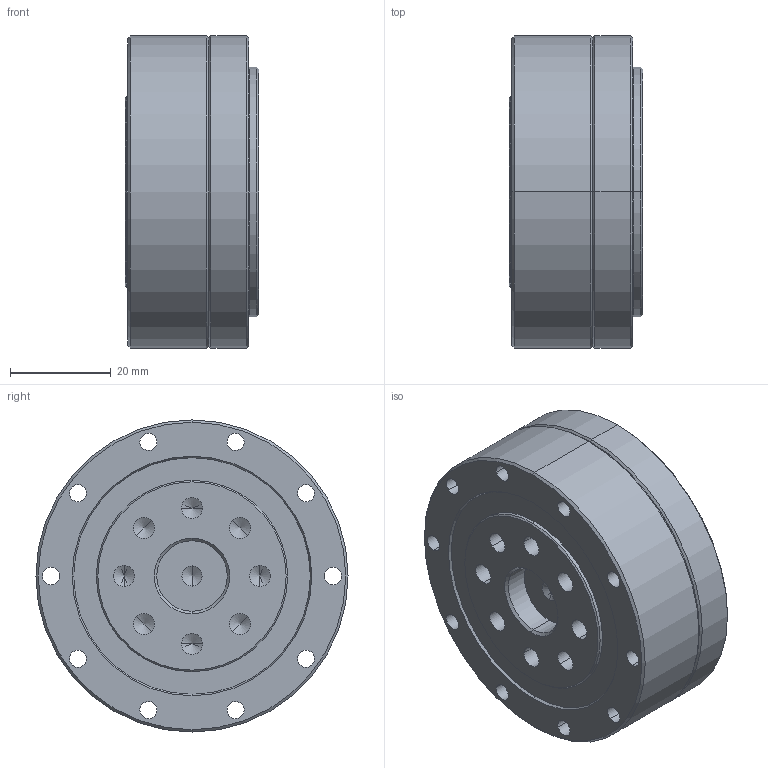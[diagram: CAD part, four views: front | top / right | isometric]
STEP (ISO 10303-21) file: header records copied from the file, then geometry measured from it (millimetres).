
FILE_DESCRIPTION((''),'2;1');
FILE_NAME('LCD-17-XXX-C-I-ST_ASM','2019-10-23T',('Administrator'),(''),'PRO/ENGINEER BY PARAMETRIC TECHNOLOGY CORPORATION, 2014200','PRO/ENGINEER BY PARAMETRIC TECHNOLOGY CORPORATION, 2014200','');
FILE_SCHEMA(('AUTOMOTIVE_DESIGN { 1 0 10303 214 1 1 1 1 }'));
Length unit declared in the file: millimetre
Products named in the file (10): RZC-17-ST内外圈_钢球; RZC-17-ST悵厥殤; LCD-17-XXX-P01-I-ST; LCD-17-XXX-P02-I-ST; LCD-17-XXX-P04-I-ST; SOCKET_HEAD_CAP_SCREW_DIN_囀鞠褒埴翐; 内六角圆柱头螺钉M2_X_12; PRT0137; PRT0139; LCD-17-XXX-C-I-ST_ASM
Assembly tree (20 placements, depth 2):
  LCD-17-XXX-C-I-ST_ASM
    RZC-17-ST内外圈_钢球
    RZC-17-ST悵厥殤
    LCD-17-XXX-P01-I-ST
    LCD-17-XXX-P02-I-ST
    LCD-17-XXX-P04-I-ST
    SOCKET_HEAD_CAP_SCREW_DIN_囀鞠褒埴翐  x8
    内六角圆柱头螺钉M2_X_12  x5
    PRT0137
    PRT0139
Bounding box: 26.5 x 62 x 62 mm (x, y, z)
Volume: 58832.6 mm3; surface area: 44243.8 mm2
Topology: 22 solids, 26 shells, 916 faces, 2334 edges, 1371 vertices
Faces by surface type: cylinder 331, plane 282, cone 134, torus 123, bspline 46
Entity records: 25822 total; most frequent: CARTESIAN_POINT 5973, DIRECTION 3575, ORIENTED_EDGE 3096, EDGE_CURVE 1556, AXIS2_PLACEMENT_3D 1552, VERTEX_POINT 1008, CIRCLE 947, EDGE_LOOP 758
